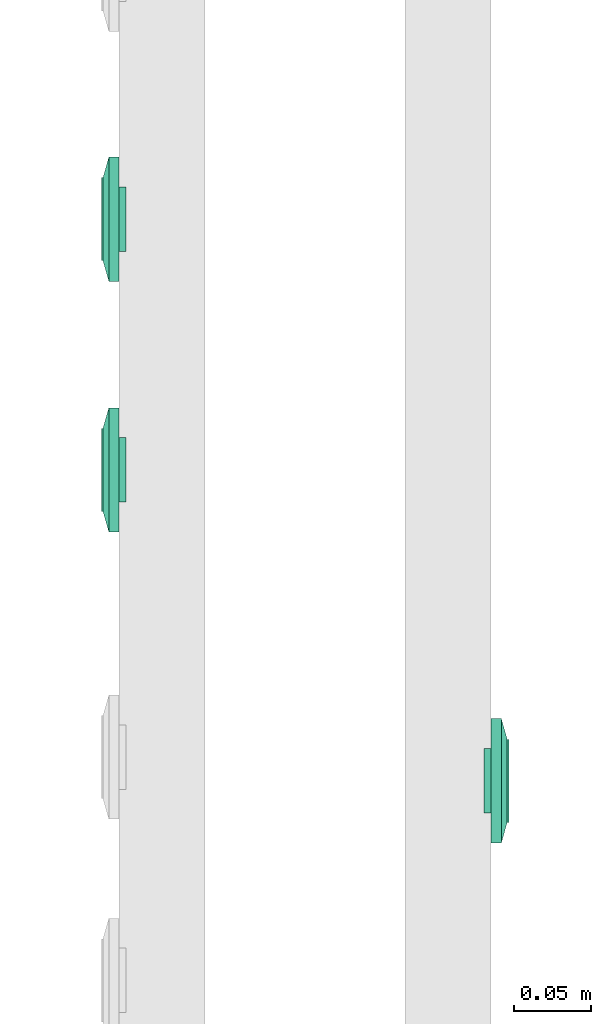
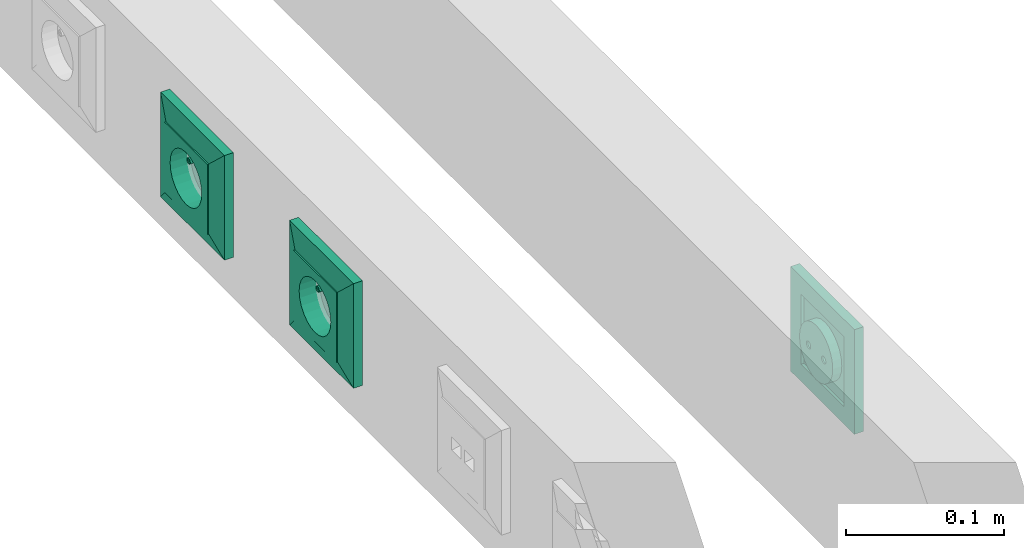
# One storey, part 38 of 166: 3 flow terminals.
"""IFC2X3 building model written with IfcOpenShell, lengths in metres."""

from ifc_helpers import new_model, entity, si_unit, converted_unit, derived_unit, direction, frame, origin, place, context, subcontext, project, spatial, face_set, surface_model, source, transform, mapped, type_object, type_shapes, element, save


model = new_model("IFC2X3")

# Units and contexts
model_context = context("Model", 3, precision=1e-05, world=origin(), true_north=direction((6.12303176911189e-17, 1.0)))
body_context = subcontext(model_context, "Body", "Model", "MODEL_VIEW")
ifc_project = project(units=[si_unit("LENGTHUNIT", "METRE"), si_unit("AREAUNIT", "SQUARE_METRE"), si_unit("VOLUMEUNIT", "CUBIC_METRE"), converted_unit("PLANEANGLEUNIT", "DEGREE", entity("IfcRatioMeasure", 0.0174532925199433), si_unit("PLANEANGLEUNIT", "RADIAN"), dimensions=[0, 0, 0, 0, 0, 0, 0]), si_unit("MASSUNIT", "GRAM", prefix="KILO"), derived_unit("MASSDENSITYUNIT", [(si_unit("MASSUNIT", "GRAM", prefix="KILO"), 1), (si_unit("LENGTHUNIT", "METRE"), -3)]), si_unit("TIMEUNIT", "SECOND"), si_unit("FREQUENCYUNIT", "HERTZ"), si_unit("THERMODYNAMICTEMPERATUREUNIT", "DEGREE_CELSIUS"), derived_unit("THERMALTRANSMITTANCEUNIT", [(si_unit("MASSUNIT", "GRAM", prefix="KILO"), 1), (si_unit("THERMODYNAMICTEMPERATUREUNIT", "KELVIN"), -1), (si_unit("TIMEUNIT", "SECOND"), -3)]), derived_unit("VOLUMETRICFLOWRATEUNIT", [(si_unit("LENGTHUNIT", "METRE"), 3), (si_unit("TIMEUNIT", "SECOND"), -1)]), si_unit("ELECTRICCURRENTUNIT", "AMPERE"), si_unit("ELECTRICVOLTAGEUNIT", "VOLT"), si_unit("POWERUNIT", "WATT"), si_unit("FORCEUNIT", "NEWTON"), si_unit("ILLUMINANCEUNIT", "LUX"), si_unit("LUMINOUSFLUXUNIT", "LUMEN"), si_unit("LUMINOUSINTENSITYUNIT", "CANDELA"), derived_unit("USERDEFINED", [(si_unit("MASSUNIT", "GRAM", prefix="KILO"), -1), (si_unit("LENGTHUNIT", "METRE"), -2), (si_unit("TIMEUNIT", "SECOND"), 3), (si_unit("LUMINOUSFLUXUNIT", "LUMEN"), 1)]), derived_unit("LINEARVELOCITYUNIT", [(si_unit("LENGTHUNIT", "METRE"), 1), (si_unit("TIMEUNIT", "SECOND"), -1)]), si_unit("PRESSUREUNIT", "PASCAL"), derived_unit("USERDEFINED", [(si_unit("LENGTHUNIT", "METRE"), -2), (si_unit("MASSUNIT", "GRAM", prefix="KILO"), 1), (si_unit("TIMEUNIT", "SECOND"), -2)])], contexts=[model_context])

# Site, building, storey
site_placement = place(None, origin())
site = spatial("IfcSite", under=ifc_project, at=site_placement, Name="Default", CompositionType="ELEMENT")
building_placement = place(site_placement, origin())
building = spatial("IfcBuilding", under=site, at=building_placement, CompositionType="ELEMENT")
storey_placement = place(building_placement, frame((0.0, 0.0, 4.27)))
storey = spatial("IfcBuildingStorey", under=building, at=storey_placement, Name="01", CompositionType="ELEMENT", Elevation=4.27)

# Flow terminals
light_fixture_type = type_object("IfcLightFixtureType", Name="PC IP20", PredefinedType="NOTDEFINED")
shared_shape = source(origin(), body_context, "Body", "SurfaceModel", [
    surface_model("IfcFaceBasedSurfaceModel", [(-0.00225000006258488, 0.0127499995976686, 0.00949633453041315), (0.0, 0.0104999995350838, 0.00949633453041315), (0.0, 0.0115376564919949, 0.0101656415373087), (0.0, 0.0139623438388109, 0.0101656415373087), (0.0, 0.0144589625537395, 0.00984531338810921), (0.0, 0.0121178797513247, 0.0102778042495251), (0.0, 0.0133821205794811, 0.0102778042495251), (0.0, 0.0127499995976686, 0.010399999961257), (0.0, 0.0149999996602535, 0.00949633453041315), (0.00225000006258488, 0.0127499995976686, 0.00949633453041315), (0.0, 0.0110410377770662, 0.00984531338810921), (0.0, 0.0127499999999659, 0.00949633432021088), (0.00225000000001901, 0.0127499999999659, 0.00949633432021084), (0.00217333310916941, 0.0121676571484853, 0.00949633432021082), (0.00194855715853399, 0.0116249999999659, 0.00949633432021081), (0.00159099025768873, 0.0111590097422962, 0.00949633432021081), (0.001125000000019, 0.010801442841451, 0.00949633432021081), (0.00058234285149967, 0.0105766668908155, 0.00949633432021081), (0.0, 0.0104999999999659, 0.00949633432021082), (-0.000582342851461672, 0.0105766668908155, 0.00949633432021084), (-0.001124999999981, 0.010801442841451, 0.00949633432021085), (-0.00159099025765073, 0.0111590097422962, 0.00949633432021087), (-0.00194855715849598, 0.011624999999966, 0.00949633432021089), (-0.0021733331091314, 0.0121676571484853, 0.00949633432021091), (-0.00224999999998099, 0.012749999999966, 0.00949633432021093), (-0.00217333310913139, 0.0133323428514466, 0.00949633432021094), (-0.00194855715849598, 0.013874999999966, 0.00949633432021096), (-0.00159099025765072, 0.0143409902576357, 0.00949633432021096), (-0.00112499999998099, 0.0146985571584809, 0.00949633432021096), (-0.00058234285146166, 0.0149233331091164, 0.00949633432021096), (0.0, 0.0149999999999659, 0.00949633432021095), (0.000582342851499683, 0.0149233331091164, 0.00949633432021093), (0.00112500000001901, 0.0146985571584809, 0.00949633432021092), (0.00159099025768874, 0.0143409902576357, 0.00949633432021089), (0.001948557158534, 0.0138749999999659, 0.00949633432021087), (0.00217333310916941, 0.0133323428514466, 0.00949633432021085), (0.00225000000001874, 0.0127499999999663, -0.00360000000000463), (0.00217333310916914, 0.0121676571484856, -0.00360000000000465), (0.00194855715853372, 0.0116249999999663, -0.00360000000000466), (0.00159099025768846, 0.0111590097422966, -0.00360000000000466), (0.00112500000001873, 0.0108014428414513, -0.00360000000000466), (0.000582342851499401, 0.0105766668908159, -0.00360000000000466), (0.0, 0.0104999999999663, -0.00360000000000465), (-0.000582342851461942, 0.0105766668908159, -0.00360000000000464), (-0.00112499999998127, 0.0108014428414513, -0.00360000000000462), (-0.001590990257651, 0.0111590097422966, -0.0036000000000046), (-0.00194855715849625, 0.0116249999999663, -0.00360000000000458), (-0.00217333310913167, 0.0121676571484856, -0.00360000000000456), (-0.00224999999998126, 0.0127499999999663, -0.00360000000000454), (-0.00217333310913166, 0.013332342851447, -0.00360000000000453), (-0.00194855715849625, 0.0138749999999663, -0.00360000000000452), (-0.00159099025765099, 0.014340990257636, -0.00360000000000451), (-0.00112499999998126, 0.0146985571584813, -0.00360000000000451), (-0.000582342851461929, 0.0149233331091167, -0.00360000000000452), (0.0, 0.0149999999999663, -0.00360000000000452), (0.000582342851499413, 0.0149233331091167, -0.00360000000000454), (0.00112500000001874, 0.0146985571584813, -0.00360000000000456), (0.00159099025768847, 0.014340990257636, -0.00360000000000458), (0.00194855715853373, 0.0138749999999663, -0.0036000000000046), (0.00217333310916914, 0.013332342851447, -0.00360000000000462), (0.0270000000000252, 0.026999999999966, 0.0113999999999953), (-0.0269999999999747, 0.026999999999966, 0.0113999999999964), (-0.0269999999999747, -0.0270000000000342, 0.0113999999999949), (0.0270000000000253, -0.0270000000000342, 0.0113999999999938), (-0.0199999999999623, 0.0, 0.0113999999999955), (-0.0193185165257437, -0.00517638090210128, 0.0113999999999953), (-0.0173205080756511, -0.0100000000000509, 0.0113999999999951), (-0.0141421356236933, -0.0141421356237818, 0.011399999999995), (-0.00999999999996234, -0.0173205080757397, 0.0113999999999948), (-0.00517638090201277, -0.0193185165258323, 0.0113999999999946), (0.0, -0.0200000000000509, 0.0113999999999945), (0.00517638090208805, -0.0193185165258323, 0.0113999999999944), (0.0100000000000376, -0.0173205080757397, 0.0113999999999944), (0.0141421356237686, -0.0141421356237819, 0.0113999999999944), (0.0173205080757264, -0.010000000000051, 0.0113999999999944), (0.0193185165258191, -0.00517638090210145, 0.0113999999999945), (0.0200000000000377, 0.0, 0.0113999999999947), (0.0193185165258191, 0.00517638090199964, 0.0113999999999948), (0.0173205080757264, 0.0099999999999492, 0.011399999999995), (0.0141421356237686, 0.0141421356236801, 0.0113999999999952), (0.0100000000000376, 0.0173205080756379, 0.0113999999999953), (0.00517638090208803, 0.0193185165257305, 0.0113999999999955), (0.0, 0.0199999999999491, 0.0113999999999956), (-0.00517638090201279, 0.0193185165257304, 0.0113999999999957), (-0.00999999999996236, 0.0173205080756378, 0.0113999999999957), (-0.0141421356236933, 0.01414213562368, 0.0113999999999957), (-0.0173205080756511, 0.00999999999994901, 0.0113999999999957), (-0.0193185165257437, 0.00517638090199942, 0.0113999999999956), (0.0270000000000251, 0.0269999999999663, 0.00199999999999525), (0.0270000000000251, -0.0270000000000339, 0.00199999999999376), (-0.0269999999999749, -0.0270000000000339, 0.00199999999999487), (-0.0269999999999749, 0.0269999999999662, 0.00199999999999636), (0.0210000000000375, 0.0, 0.00199999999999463), (0.0202844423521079, -0.00543519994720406, 0.00199999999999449), (0.0181865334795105, -0.0105000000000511, 0.0019999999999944), (0.0148492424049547, -0.0148492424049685, 0.00199999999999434), (0.0105000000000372, -0.0181865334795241, 0.00199999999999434), (0.0054351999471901, -0.0202844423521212, 0.00199999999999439), (0.0, -0.0210000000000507, 0.00199999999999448), (-0.00543519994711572, -0.020284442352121, 0.00199999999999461), (-0.0104999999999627, -0.0181865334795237, 0.00199999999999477), (-0.0148492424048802, -0.014849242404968, 0.00199999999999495), (-0.0181865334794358, -0.0105000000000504, 0.00199999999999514), (-0.020284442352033, -0.00543519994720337, 0.00199999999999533), (-0.0209999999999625, 0.0, 0.00199999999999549), (-0.0202844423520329, 0.0054351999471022, 0.00199999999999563), (-0.0181865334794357, 0.0104999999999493, 0.00199999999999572), (-0.01484924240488, 0.0148492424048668, 0.00199999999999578), (-0.0104999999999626, 0.0181865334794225, 0.00199999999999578), (-0.00543519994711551, 0.0202844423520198, 0.00199999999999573), (0.0, 0.0209999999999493, 0.00199999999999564), (0.00543519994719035, 0.0202844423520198, 0.00199999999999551), (0.0105000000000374, 0.0181865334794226, 0.00199999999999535), (0.0148492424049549, 0.0148492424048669, 0.00199999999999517), (0.0181865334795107, 0.0104999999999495, 0.00199999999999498), (0.0202844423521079, 0.00543519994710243, 0.00199999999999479), (0.0200000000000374, 0.0, -0.00360000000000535), (0.0193185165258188, -0.00517638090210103, -0.00360000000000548), (0.0173205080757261, -0.0100000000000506, -0.00360000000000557), (0.0141421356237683, -0.0141421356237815, -0.00360000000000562), (0.0100000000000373, -0.0173205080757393, -0.00360000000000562), (0.00517638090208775, -0.0193185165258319, -0.00360000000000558), (0.0, -0.0200000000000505, -0.00360000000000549), (-0.00517638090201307, -0.0193185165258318, -0.00360000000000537), (-0.00999999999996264, -0.0173205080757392, -0.00360000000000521), (-0.0141421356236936, -0.0141421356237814, -0.00360000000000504), (-0.0173205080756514, -0.0100000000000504, -0.00360000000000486), (-0.019318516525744, -0.00517638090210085, -0.00360000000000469), (-0.0199999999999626, 0.0, -0.00360000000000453), (-0.0193185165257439, 0.00517638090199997, -0.0036000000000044), (-0.0173205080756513, 0.00999999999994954, -0.00360000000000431), (-0.0141421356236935, 0.0141421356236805, -0.00360000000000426), (-0.00999999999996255, 0.0173205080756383, -0.00360000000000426), (-0.00517638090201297, 0.0193185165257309, -0.0036000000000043), (0.0, 0.0199999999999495, -0.00360000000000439), (0.00517638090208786, 0.0193185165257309, -0.00360000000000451), (0.0100000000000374, 0.0173205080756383, -0.00360000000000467), (0.0141421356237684, 0.0141421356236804, -0.00360000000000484), (0.0173205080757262, 0.0099999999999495, -0.00360000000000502), (0.0193185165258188, 0.00517638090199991, -0.00360000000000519), (-0.0123499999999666, 0.0, -0.00360000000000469), (-0.0122562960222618, -0.000711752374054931, -0.00360000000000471), (-0.0119815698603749, -0.00137500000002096, -0.00360000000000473), (-0.0115445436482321, -0.00194454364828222, -0.00360000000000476), (-0.0109749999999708, -0.00238156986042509, -0.00360000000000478), (-0.0103117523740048, -0.00265629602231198, -0.0036000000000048), (-0.00959999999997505, -0.00275000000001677, -0.00360000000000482), (-0.0088882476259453, -0.00265629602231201, -0.00360000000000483), (-0.00822499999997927, -0.00238156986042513, -0.00360000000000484), (-0.00765545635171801, -0.00194454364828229, -0.00360000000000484), (-0.00721843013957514, -0.00137500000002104, -0.00360000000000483), (-0.00694370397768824, -0.000711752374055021, -0.00360000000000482), (-0.00684999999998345, 0.0, -0.0036000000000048), (-0.00694370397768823, 0.000711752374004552, -0.00360000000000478), (-0.00721843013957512, 0.00137499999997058, -0.00360000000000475), (-0.00765545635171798, 0.00194454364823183, -0.00360000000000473), (-0.00822499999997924, 0.00238156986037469, -0.0036000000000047), (-0.00888824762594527, 0.00265629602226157, -0.00360000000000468), (-0.00959999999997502, 0.00274999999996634, -0.00360000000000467), (-0.0103117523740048, 0.00265629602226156, -0.00360000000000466), (-0.0109749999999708, 0.00238156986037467, -0.00360000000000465), (-0.011544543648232, 0.00194454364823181, -0.00360000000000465), (-0.0119815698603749, 0.00137499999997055, -0.00360000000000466), (-0.0122562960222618, 0.000711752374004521, -0.00360000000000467), (0.00685000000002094, 0.0, -0.00360000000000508), (0.0069437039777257, -0.00071175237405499, -0.0036000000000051), (0.00721843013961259, -0.00137500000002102, -0.00360000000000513), (0.00765545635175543, -0.00194454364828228, -0.00360000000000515), (0.00822500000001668, -0.00238156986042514, -0.00360000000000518), (0.00888824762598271, -0.00265629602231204, -0.0036000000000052), (0.00960000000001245, -0.00275000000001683, -0.00360000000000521), (0.0103117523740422, -0.00265629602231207, -0.00360000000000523), (0.0109750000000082, -0.00238156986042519, -0.00360000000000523), (0.0115445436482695, -0.00194454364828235, -0.00360000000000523), (0.0119815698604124, -0.0013750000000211, -0.00360000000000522), (0.0122562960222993, -0.00071175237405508, -0.00360000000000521), (0.012350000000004, 0.0, -0.00360000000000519), (0.0122562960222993, 0.000711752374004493, -0.00360000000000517), (0.0119815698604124, 0.00137499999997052, -0.00360000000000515), (0.0115445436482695, 0.00194454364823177, -0.00360000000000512), (0.0109750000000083, 0.00238156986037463, -0.0036000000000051), (0.0103117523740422, 0.00265629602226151, -0.00360000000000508), (0.00960000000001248, 0.00274999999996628, -0.00360000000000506), (0.00888824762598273, 0.0026562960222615, -0.00360000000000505), (0.0082250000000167, 0.00238156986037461, -0.00360000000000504), (0.00765545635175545, 0.00194454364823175, -0.00360000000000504), (0.0072184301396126, 0.00137499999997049, -0.00360000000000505), (0.00694370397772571, 0.000711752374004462, -0.00360000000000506), (0.0210000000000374, 0.0, -0.00460000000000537), (0.0202844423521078, -0.00543519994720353, -0.00460000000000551), (0.0181865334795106, -0.0105000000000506, -0.0046000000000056), (0.0148492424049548, -0.0148492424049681, -0.00460000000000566), (0.0105000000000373, -0.0181865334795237, -0.00460000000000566), (0.00543519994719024, -0.0202844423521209, -0.00460000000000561), (0.0, -0.0210000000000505, -0.00460000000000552), (-0.00543519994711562, -0.0202844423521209, -0.00460000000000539), (-0.0104999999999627, -0.0181865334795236, -0.00460000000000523), (-0.0148492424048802, -0.0148492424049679, -0.00460000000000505), (-0.0181865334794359, -0.0105000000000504, -0.00460000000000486), (-0.0202844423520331, -0.00543519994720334, -0.00460000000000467), (-0.0209999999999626, 0.0, -0.00460000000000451), (-0.020284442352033, 0.00543519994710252, -0.00460000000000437), (-0.0181865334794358, 0.0104999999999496, -0.00460000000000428), (-0.0148492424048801, 0.0148492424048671, -0.00460000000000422), (-0.0104999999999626, 0.0181865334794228, -0.00460000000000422), (-0.00543519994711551, 0.02028444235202, -0.00460000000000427), (0.0, 0.0209999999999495, -0.00460000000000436), (0.00543519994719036, 0.02028444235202, -0.00460000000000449), (0.0105000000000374, 0.0181865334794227, -0.00460000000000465), (0.0148492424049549, 0.014849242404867, -0.00460000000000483), (0.0181865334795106, 0.0104999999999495, -0.00460000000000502), (0.0202844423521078, 0.00543519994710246, -0.00460000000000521), (-0.00684999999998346, 0.0, -0.0046000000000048), (-0.00694370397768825, 0.000711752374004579, -0.00460000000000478), (-0.00721843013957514, 0.00137499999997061, -0.00460000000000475), (-0.007655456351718, 0.00194454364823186, -0.00460000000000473), (-0.00822499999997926, 0.00238156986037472, -0.0046000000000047), (-0.00888824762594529, 0.0026562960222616, -0.00460000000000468), (-0.00959999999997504, 0.00274999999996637, -0.00460000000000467), (-0.0103117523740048, 0.00265629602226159, -0.00460000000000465), (-0.0109749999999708, 0.0023815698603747, -0.00460000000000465), (-0.0115445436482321, 0.00194454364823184, -0.00460000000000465), (-0.0119815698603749, 0.00137499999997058, -0.00460000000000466), (-0.0122562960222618, 0.000711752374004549, -0.00460000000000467), (-0.0123499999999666, 0.0, -0.00460000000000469), (-0.0122562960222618, -0.000711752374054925, -0.00460000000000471), (-0.0119815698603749, -0.00137500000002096, -0.00460000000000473), (-0.0115445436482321, -0.00194454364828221, -0.00460000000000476), (-0.0109749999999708, -0.00238156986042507, -0.00460000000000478), (-0.0103117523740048, -0.00265629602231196, -0.0046000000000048), (-0.00959999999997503, -0.00275000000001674, -0.00460000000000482), (-0.00888824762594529, -0.00265629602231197, -0.00460000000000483), (-0.00822499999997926, -0.00238156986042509, -0.00460000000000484), (-0.007655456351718, -0.00194454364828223, -0.00460000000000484), (-0.00721843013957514, -0.00137500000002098, -0.00460000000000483), (-0.00694370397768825, -0.000711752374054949, -0.00460000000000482), (0.012350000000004, 0.0, -0.00460000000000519), (0.0122562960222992, 0.000711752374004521, -0.00460000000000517), (0.0119815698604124, 0.00137499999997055, -0.00460000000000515), (0.0115445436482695, 0.0019445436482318, -0.00460000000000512), (0.0109750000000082, 0.00238156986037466, -0.0046000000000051), (0.0103117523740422, 0.00265629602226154, -0.00460000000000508), (0.00960000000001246, 0.00274999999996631, -0.00460000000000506), (0.00888824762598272, 0.00265629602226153, -0.00460000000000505), (0.00822500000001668, 0.00238156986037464, -0.00460000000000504), (0.00765545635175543, 0.00194454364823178, -0.00460000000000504), (0.00721843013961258, 0.00137499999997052, -0.00460000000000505), (0.00694370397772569, 0.00071175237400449, -0.00460000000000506), (0.00685000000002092, 0.0, -0.00460000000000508), (0.00694370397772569, -0.000711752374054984, -0.0046000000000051), (0.00721843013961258, -0.00137500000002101, -0.00460000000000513), (0.00765545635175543, -0.00194454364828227, -0.00460000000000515), (0.00822500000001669, -0.00238156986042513, -0.00460000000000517), (0.00888824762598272, -0.00265629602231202, -0.0046000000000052), (0.00960000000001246, -0.0027500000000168, -0.00460000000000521), (0.0103117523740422, -0.00265629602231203, -0.00460000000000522), (0.0109750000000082, -0.00238156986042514, -0.00460000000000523), (0.0115445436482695, -0.00194454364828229, -0.00460000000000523), (0.0119815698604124, -0.00137500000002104, -0.00460000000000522), (0.0122562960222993, -0.000711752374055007, -0.00460000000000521), (0.040350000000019, 0.0403499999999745, 0.00659999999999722), (0.040350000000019, -0.0403500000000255, 0.00659999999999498), (-0.0403499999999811, -0.0403500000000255, 0.00659999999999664), (-0.0403499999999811, 0.0403499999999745, 0.00659999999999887), (0.027000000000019, 0.0269999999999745, 0.00659999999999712), (-0.0269999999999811, 0.0269999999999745, 0.00659999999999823), (-0.026999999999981, -0.0270000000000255, 0.00659999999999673), (0.027000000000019, -0.0270000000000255, 0.00659999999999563), (0.027000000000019, 0.0269999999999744, 0.0103999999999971), (-0.026999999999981, 0.0269999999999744, 0.0103999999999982), (-0.026999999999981, -0.0270000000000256, 0.0103999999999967), (0.027000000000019, -0.0270000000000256, 0.0103999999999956), (0.040350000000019, 0.0403499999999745, 0.00659999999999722), (0.040350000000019, -0.0403500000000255, 0.00659999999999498), (-0.0403499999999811, -0.0403500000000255, 0.00659999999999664), (-0.0403499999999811, 0.0403499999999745, 0.00659999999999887), (-0.0269999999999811, 0.0269999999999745, 0.00659999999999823), (-0.0269999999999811, -0.0270000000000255, 0.00659999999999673), (0.0270000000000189, -0.0270000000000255, 0.00659999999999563), (0.0270000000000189, 0.0269999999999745, 0.00659999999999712), (0.0403500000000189, 0.0403499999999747, 0.0), (0.0403500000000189, -0.0403500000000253, 0.0), (-0.0403499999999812, -0.0403500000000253, 0.0), (-0.0403499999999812, 0.0403499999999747, 0.0), (0.0270000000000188, 0.0269999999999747, 0.0), (-0.0269999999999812, 0.0269999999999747, 0.0), (-0.0269999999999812, -0.0270000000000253, 0.0), (0.0270000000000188, -0.0270000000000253, 0.0)], [face_set([[[0, 1, 2]], [[3, 4, 2, 5]], [[6, 3, 5, 7]], [[2, 4, 0]], [[4, 8, 0]], [[3, 9, 8]], [[1, 9, 10]], [[2, 3, 6, 7]], [[3, 10, 9]], [[2, 10, 3]], [[11, 1, 0, 8]], [[11, 8, 9, 1]]]), face_set([[[12, 13, 14, 15, 16, 17, 18, 19, 20, 21, 22, 23, 24, 25, 26, 27, 28, 29, 30, 31, 32, 33, 34, 35]], [[36, 37, 38, 39, 40, 41, 42, 43, 44, 45, 46, 47, 48, 49, 50, 51, 52, 53, 54, 55, 56, 57, 58, 59]], [[48, 47, 23, 24]], [[47, 46, 22, 23]], [[45, 44, 20, 21]], [[46, 45, 21, 22]], [[44, 43, 19, 20]], [[18, 19, 43, 42]], [[42, 41, 17, 18]], [[41, 40, 16, 17]], [[39, 38, 14, 15]], [[40, 39, 15, 16]], [[38, 37, 13, 14]], [[12, 13, 37, 36]], [[36, 59, 35, 12]], [[59, 58, 34, 35]], [[57, 56, 32, 33]], [[58, 57, 33, 34]], [[56, 55, 31, 32]], [[30, 31, 55, 54]], [[54, 53, 29, 30]], [[53, 52, 28, 29]], [[51, 50, 26, 27]], [[52, 51, 27, 28]], [[50, 49, 25, 26]], [[24, 25, 49, 48]]]), face_set([[[60, 61, 62, 63], [64, 65, 66, 67, 68, 69, 70, 71, 72, 73, 74, 75, 76, 77, 78, 79, 80, 81, 82, 83, 84, 85, 86, 87]], [[88, 89, 90, 91], [92, 93, 94, 95, 96, 97, 98, 99, 100, 101, 102, 103, 104, 105, 106, 107, 108, 109, 110, 111, 112, 113, 114, 115]], [[61, 60, 88, 91]], [[62, 61, 91, 90]], [[63, 62, 90, 89]], [[60, 63, 89, 88]], [[116, 117, 118, 119, 120, 121, 122, 123, 124, 125, 126, 127, 128, 129, 130, 131, 132, 133, 134, 135, 136, 137, 138, 139], [140, 141, 142, 143, 144, 145, 146, 147, 148, 149, 150, 151, 152, 153, 154, 155, 156, 157, 158, 159, 160, 161, 162, 163], [164, 165, 166, 167, 168, 169, 170, 171, 172, 173, 174, 175, 176, 177, 178, 179, 180, 181, 182, 183, 184, 185, 186, 187]], [[64, 128, 127, 65]], [[65, 127, 126, 66]], [[67, 125, 124, 68]], [[66, 126, 125, 67]], [[68, 124, 123, 69]], [[122, 70, 69, 123]], [[70, 122, 121, 71]], [[71, 121, 120, 72]], [[73, 119, 118, 74]], [[72, 120, 119, 73]], [[74, 118, 117, 75]], [[116, 76, 75, 117]], [[76, 116, 139, 77]], [[77, 139, 138, 78]], [[79, 137, 136, 80]], [[78, 138, 137, 79]], [[80, 136, 135, 81]], [[134, 82, 81, 135]], [[82, 134, 133, 83]], [[83, 133, 132, 84]], [[84, 132, 131, 85]], [[85, 131, 130, 86]], [[130, 129, 87, 86]], [[64, 87, 129, 128]], [[188, 189, 190, 191, 192, 193, 194, 195, 196, 197, 198, 199, 200, 201, 202, 203, 204, 205, 206, 207, 208, 209, 210, 211], [212, 213, 214, 215, 216, 217, 218, 219, 220, 221, 222, 223, 224, 225, 226, 227, 228, 229, 230, 231, 232, 233, 234, 235], [236, 237, 238, 239, 240, 241, 242, 243, 244, 245, 246, 247, 248, 249, 250, 251, 252, 253, 254, 255, 256, 257, 258, 259]], [[200, 199, 103, 104]], [[199, 198, 102, 103]], [[197, 196, 100, 101]], [[198, 197, 101, 102]], [[196, 195, 99, 100]], [[98, 99, 195, 194]], [[194, 193, 97, 98]], [[193, 192, 96, 97]], [[191, 190, 94, 95]], [[192, 191, 95, 96]], [[190, 189, 93, 94]], [[92, 93, 189, 188]], [[188, 211, 115, 92]], [[211, 210, 114, 115]], [[209, 208, 112, 113]], [[210, 209, 113, 114]], [[208, 207, 111, 112]], [[110, 111, 207, 206]], [[206, 205, 109, 110]], [[205, 204, 108, 109]], [[203, 202, 106, 107]], [[204, 203, 107, 108]], [[202, 201, 105, 106]], [[104, 105, 201, 200]], [[141, 225, 226, 142]], [[140, 224, 225, 141]], [[144, 228, 229, 145]], [[143, 227, 228, 144]], [[142, 226, 227, 143]], [[230, 146, 145, 229]], [[149, 233, 232, 148]], [[148, 232, 231, 147]], [[152, 212, 235, 151]], [[151, 235, 234, 150]], [[150, 234, 233, 149]], [[146, 230, 231, 147]], [[154, 214, 213, 153]], [[153, 213, 212, 152]], [[157, 217, 216, 156]], [[156, 216, 215, 155]], [[155, 215, 214, 154]], [[218, 158, 157, 217]], [[160, 220, 221, 161]], [[159, 219, 220, 160]], [[163, 223, 224, 140]], [[162, 222, 223, 163]], [[161, 221, 222, 162]], [[158, 218, 219, 159]], [[166, 250, 249, 165]], [[165, 249, 248, 164]], [[169, 253, 252, 168]], [[168, 252, 251, 167]], [[167, 251, 250, 166]], [[254, 170, 169, 253]], [[172, 256, 257, 173]], [[171, 255, 256, 172]], [[175, 259, 236, 176]], [[174, 258, 259, 175]], [[173, 257, 258, 174]], [[170, 254, 255, 171]], [[177, 237, 238, 178]], [[176, 236, 237, 177]], [[180, 240, 241, 181]], [[179, 239, 240, 180]], [[178, 238, 239, 179]], [[242, 182, 181, 241]], [[185, 245, 244, 184]], [[184, 244, 243, 183]], [[164, 248, 247, 187]], [[187, 247, 246, 186]], [[186, 246, 245, 185]], [[182, 242, 243, 183]]]), face_set([[[260, 261, 262, 263], [264, 265, 266, 267]], [[260, 268, 269, 263]], [[263, 269, 270, 262]], [[262, 270, 271, 261]], [[261, 271, 268, 260]], [[264, 265, 269, 268]], [[265, 266, 270, 269]], [[266, 267, 271, 270]], [[268, 271, 267, 264]]]), face_set([[[272, 273, 274, 275], [276, 277, 278, 279]], [[280, 281, 282, 283], [284, 285, 286, 287]], [[275, 272, 280, 283]], [[274, 275, 283, 282]], [[273, 274, 282, 281]], [[272, 273, 281, 280]], [[284, 285, 276, 279]], [[285, 286, 277, 276]], [[286, 287, 278, 277]], [[279, 278, 287, 284]]])]),
])
type_shapes(light_fixture_type, [shared_shape])
for number, where, z_axis, x_axis in (
    (1, (33.3667436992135, -191.878554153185, 4.70800000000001), (-1.0, 0.0, 0.0), (0.0, -1.0, 0.0)),
    (2, (33.3667436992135, -192.041554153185, 4.70800000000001), (-1.0, 0.0, 0.0), (0.0, -1.0, 0.0)),
    (3, (33.6087436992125, -192.243663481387, 4.70800000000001), (1.0, 0.0, 0.0), (0.0, 1.0, 0.0)),
):
    element("IfcFlowTerminal", number, at=place(building_placement, frame(where, z_axis=z_axis, x_axis=x_axis)), inside=storey, type_object=light_fixture_type, Name="INT Prise de courant:PC IP20", ObjectType="INT Prise de courant:PC IP20", context=body_context, shape_type="MappedRepresentation", body=[
        mapped(shared_shape, transform((0.0, 0.0, 0.0), scale=1.0)),
    ])

save(model, "model.ifc")
